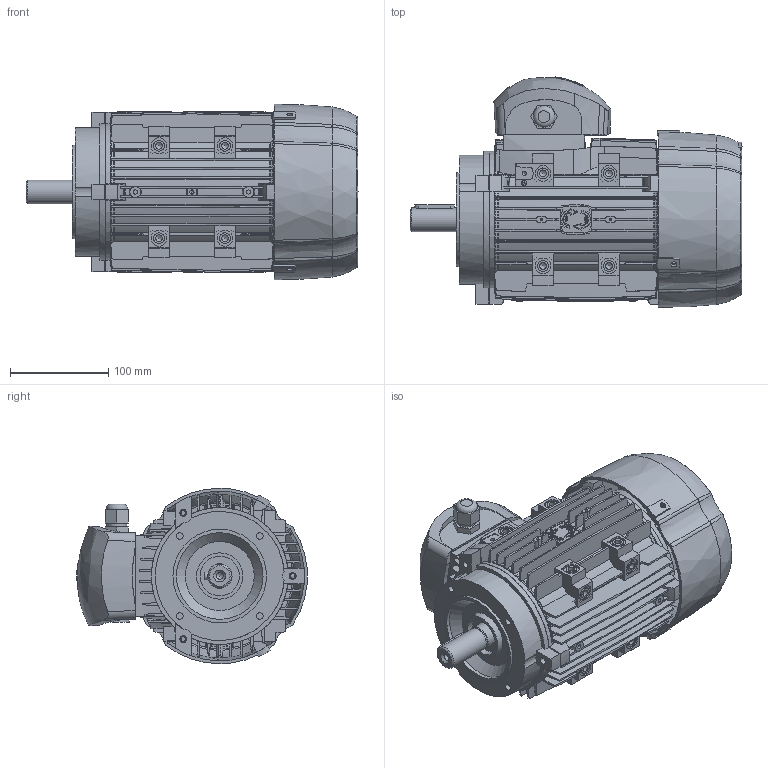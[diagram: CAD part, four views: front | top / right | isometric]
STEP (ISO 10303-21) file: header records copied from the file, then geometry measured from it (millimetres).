
FILE_DESCRIPTION((''),'2;1');
FILE_NAME('D:\htdocs\motive\source_step\M90L.stp','2014-09-02T16:49:46',('ing.Casini'),(''),'Autodesk Inventor 2010','Autodesk Inventor 2010','');
FILE_SCHEMA(('AUTOMOTIVE_DESIGN { 1 0 10303 214 1 1 1 1 }'));
Length unit declared in the file: millimetre
Products named in the file (7): M90L Lighter motor Assly_27.08; BODY90L; B1490; NDE90_As per DE Cover; SH90L; TBOX90_100; FCV90
Assembly tree (6 placements, depth 2):
  M90L Lighter motor Assly_27.08
    BODY90L
    B1490
    NDE90_As per DE Cover
    SH90L
    TBOX90_100
    FCV90
Bounding box: 337.12 x 233.94 x 178.16 mm (x, y, z)
Volume: 3943102.4 mm3; surface area: 625867.7 mm2
Topology: 6 solids, 6 shells, 2204 faces, 6125 edges, 4064 vertices
Faces by surface type: plane 867, bspline 560, cylinder 422, torus 184, cone 169, sphere 2
Full cylindrical faces by diameter (mm): 2.5 x4, 4.2 x16, 5 x9, 5.4 x2, 6 x3, 6.6 x3, 6.8 x16, 7 x4, 11 x15, 20 x1, 23 x1, 24 x1, 25 x4, 40 x2, 42 x2, 47 x1, 50 x1, 52 x3, 55 x1, 88 x1, 95 x1, 125 x1, 131 x2
Entity records: 105584 total; most frequent: CARTESIAN_POINT 53921, ORIENTED_EDGE 11848, DIRECTION 8871, EDGE_CURVE 5924, VERTEX_POINT 4009, AXIS2_PLACEMENT_3D 3290, EDGE_LOOP 2521, VECTOR 2291
